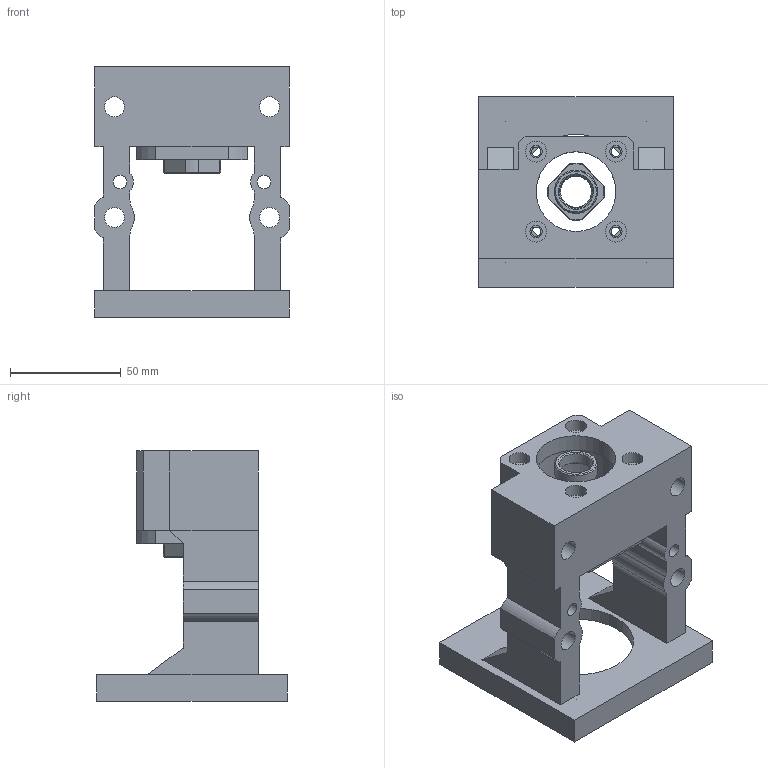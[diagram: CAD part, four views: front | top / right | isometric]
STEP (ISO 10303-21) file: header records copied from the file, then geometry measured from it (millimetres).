
FILE_DESCRIPTION(/* description */ (''),/* implementation_level */ '2;1');
FILE_NAME(/* name */ 'M80EP-AK15-C.stp',/* time_stamp */ '2017-07-03T16:13:49+08:00',/* author */ (''),/* organization */ (''),/* preprocessor_version */ 'ST-DEVELOPER v15',/* originating_system */ 'SIEMENS PLM Software NX 9.0',/* authorisation */ '');
FILE_SCHEMA (('CONFIG_CONTROL_DESIGN'));
Length unit declared in the file: millimetre
Products named in the file (4): MBCA15-EP-03; MBCA15-EP-04; MBCA15-EP-02; MBCA15-EP
Assembly tree (4 placements, depth 2):
  MBCA15-EP
    MBCA15-EP-02  x2
    MBCA15-EP-04
    MBCA15-EP-03
Bounding box: 88 x 86 x 113 mm (x, y, z)
Volume: 218172.7 mm3; surface area: 68494.8 mm2
Topology: 6 solids, 6 shells, 213 faces, 529 edges, 340 vertices
Faces by surface type: plane 91, cylinder 75, cone 39, bspline 8
Full cylindrical faces by diameter (mm): 3.4 x2, 4.2 x8, 5.5 x4, 6 x2, 8 x2, 9 x4, 9.5 x4, 14 x5, 15 x2, 19.4 x2, 19.5 x1, 36 x2, 42 x2, 52 x1, 70 x1
Entity records: 7288 total; most frequent: CARTESIAN_POINT 2206, DIRECTION 948, ORIENTED_EDGE 870, EDGE_CURVE 435, AXIS2_PLACEMENT_3D 370, EDGE_LOOP 319, VERTEX_POINT 308, LINE 208
